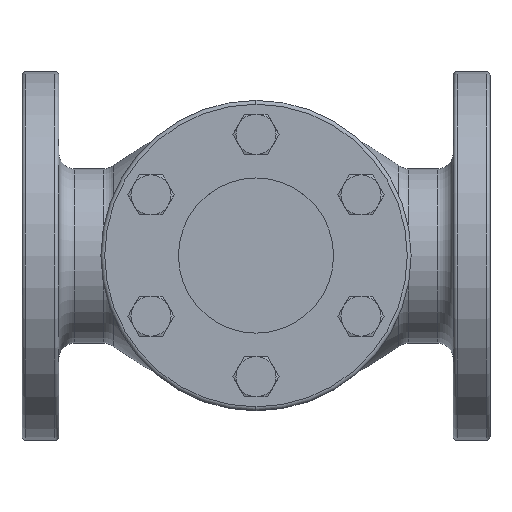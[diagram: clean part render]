
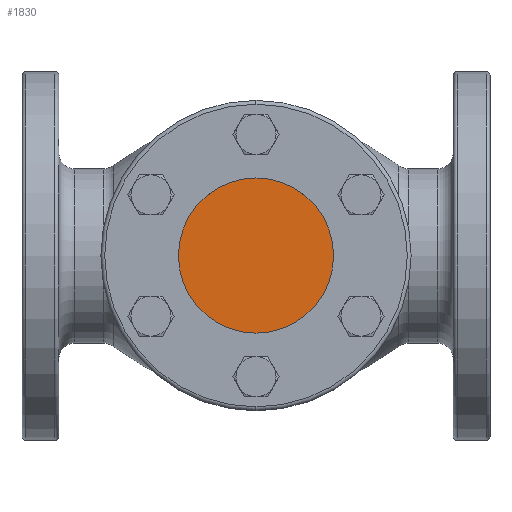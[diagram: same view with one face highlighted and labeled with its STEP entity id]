
A CAD part, top view. The second image highlights one B-rep face of the part: STEP entity #1830.
In plain terms, the highlighted planar face has unit normal (0, 0, 1).
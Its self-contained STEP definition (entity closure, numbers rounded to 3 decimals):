
#206 = VERTEX_POINT('',#207);
#207 = CARTESIAN_POINT('',(8.896,-178.246,
    370.5));
#216 = CYLINDRICAL_SURFACE('',#217,40.);
#217 = AXIS2_PLACEMENT_3D('',#218,#219,#220);
#218 = CARTESIAN_POINT('',(8.896,-138.246,
    370.5));
#219 = DIRECTION('',(0.,0.,1.));
#220 = DIRECTION('',(0.,-1.,0.));
#228 = CYLINDRICAL_SURFACE('',#229,40.);
#229 = AXIS2_PLACEMENT_3D('',#230,#231,#232);
#230 = CARTESIAN_POINT('',(8.896,-138.246,
    370.5));
#231 = DIRECTION('',(0.,0.,1.));
#232 = DIRECTION('',(0.,-1.,0.));
#270 = VERTEX_POINT('',#271);
#271 = CARTESIAN_POINT('',(8.896,-98.246,
    370.5));
#292 = EDGE_CURVE('',#270,#206,#293,.T.);
#293 = SURFACE_CURVE('',#294,(#299,#306),.PCURVE_S1.);
#294 = CIRCLE('',#295,40.);
#295 = AXIS2_PLACEMENT_3D('',#296,#297,#298);
#296 = CARTESIAN_POINT('',(8.896,-138.246,
    370.5));
#297 = DIRECTION('',(0.,0.,1.));
#298 = DIRECTION('',(0.,-1.,0.));
#299 = PCURVE('',#216,#300);
#300 = DEFINITIONAL_REPRESENTATION('',(#301),#305);
#301 = LINE('',#302,#303);
#302 = CARTESIAN_POINT('',(0.,0.));
#303 = VECTOR('',#304,1.);
#304 = DIRECTION('',(1.,0.));
#305 = ( GEOMETRIC_REPRESENTATION_CONTEXT(2) 
PARAMETRIC_REPRESENTATION_CONTEXT() REPRESENTATION_CONTEXT('2D SPACE',''
  ) );
#306 = PCURVE('',#307,#312);
#307 = PLANE('',#308);
#308 = AXIS2_PLACEMENT_3D('',#309,#310,#311);
#309 = CARTESIAN_POINT('',(8.896,-138.246,
    370.5));
#310 = DIRECTION('',(0.,0.,1.));
#311 = DIRECTION('',(0.,-1.,0.));
#312 = DEFINITIONAL_REPRESENTATION('',(#313),#317);
#313 = CIRCLE('',#314,40.);
#314 = AXIS2_PLACEMENT_2D('',#315,#316);
#315 = CARTESIAN_POINT('',(0.,0.));
#316 = DIRECTION('',(1.,0.));
#317 = ( GEOMETRIC_REPRESENTATION_CONTEXT(2) 
PARAMETRIC_REPRESENTATION_CONTEXT() REPRESENTATION_CONTEXT('2D SPACE',''
  ) );
#1807 = EDGE_CURVE('',#206,#270,#1808,.T.);
#1808 = SURFACE_CURVE('',#1809,(#1814,#1821),.PCURVE_S1.);
#1809 = CIRCLE('',#1810,40.);
#1810 = AXIS2_PLACEMENT_3D('',#1811,#1812,#1813);
#1811 = CARTESIAN_POINT('',(8.896,-138.246,
    370.5));
#1812 = DIRECTION('',(0.,0.,1.));
#1813 = DIRECTION('',(0.,-1.,0.));
#1814 = PCURVE('',#228,#1815);
#1815 = DEFINITIONAL_REPRESENTATION('',(#1816),#1820);
#1816 = LINE('',#1817,#1818);
#1817 = CARTESIAN_POINT('',(0.,0.));
#1818 = VECTOR('',#1819,1.);
#1819 = DIRECTION('',(1.,0.));
#1820 = ( GEOMETRIC_REPRESENTATION_CONTEXT(2) 
PARAMETRIC_REPRESENTATION_CONTEXT() REPRESENTATION_CONTEXT('2D SPACE',''
  ) );
#1821 = PCURVE('',#307,#1822);
#1822 = DEFINITIONAL_REPRESENTATION('',(#1823),#1827);
#1823 = CIRCLE('',#1824,40.);
#1824 = AXIS2_PLACEMENT_2D('',#1825,#1826);
#1825 = CARTESIAN_POINT('',(0.,0.));
#1826 = DIRECTION('',(1.,0.));
#1827 = ( GEOMETRIC_REPRESENTATION_CONTEXT(2) 
PARAMETRIC_REPRESENTATION_CONTEXT() REPRESENTATION_CONTEXT('2D SPACE',''
  ) );
#1830 = ADVANCED_FACE('',(#1831),#307,.T.);
#1831 = FACE_BOUND('',#1832,.T.);
#1832 = EDGE_LOOP('',(#1833,#1834));
#1833 = ORIENTED_EDGE('',*,*,#1807,.T.);
#1834 = ORIENTED_EDGE('',*,*,#292,.T.);
